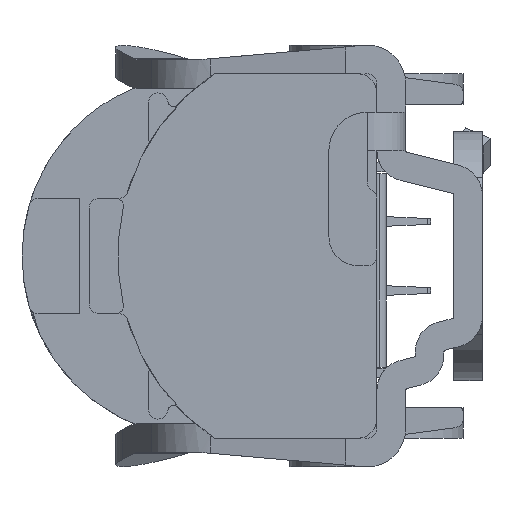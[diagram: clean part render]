
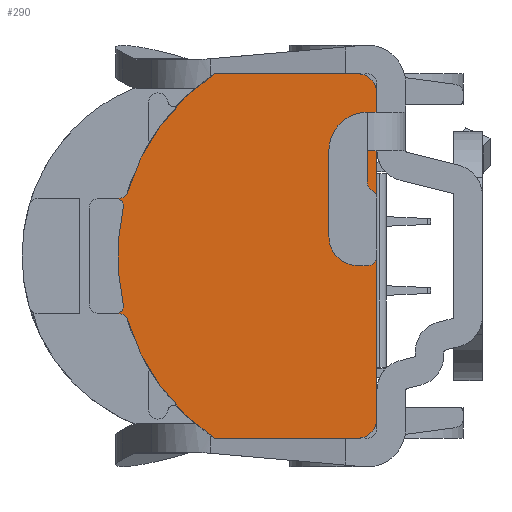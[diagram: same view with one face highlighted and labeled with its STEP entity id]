
A CAD part, left-side view. The second image highlights one B-rep face of the part: STEP entity #290.
In plain terms, the highlighted planar face has unit normal (-1, 0, 0).
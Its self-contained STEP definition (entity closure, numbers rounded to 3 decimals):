
#290 = ADVANCED_FACE( '', ( #910 ), #911, .F. );
#910 = FACE_OUTER_BOUND( '', #1716, .T. );
#911 = PLANE( '', #1717 );
#1716 = EDGE_LOOP( '', ( #3894, #3895, #3896, #3897, #3898, #3899, #3900, #3901, #3902, #3903, #3904, #3905, #3906, #3907 ) );
#1717 = AXIS2_PLACEMENT_3D( '', #3908, #3909, #3910 );
#3894 = ORIENTED_EDGE( '', *, *, #6202, .T. );
#3895 = ORIENTED_EDGE( '', *, *, #6227, .F. );
#3896 = ORIENTED_EDGE( '', *, *, #6220, .F. );
#3897 = ORIENTED_EDGE( '', *, *, #6228, .F. );
#3898 = ORIENTED_EDGE( '', *, *, #6229, .F. );
#3899 = ORIENTED_EDGE( '', *, *, #6005, .F. );
#3900 = ORIENTED_EDGE( '', *, *, #5814, .F. );
#3901 = ORIENTED_EDGE( '', *, *, #5988, .F. );
#3902 = ORIENTED_EDGE( '', *, *, #6230, .F. );
#3903 = ORIENTED_EDGE( '', *, *, #6231, .F. );
#3904 = ORIENTED_EDGE( '', *, *, #6211, .F. );
#3905 = ORIENTED_EDGE( '', *, *, #6223, .F. );
#3906 = ORIENTED_EDGE( '', *, *, #6195, .T. );
#3907 = ORIENTED_EDGE( '', *, *, #6199, .T. );
#3908 = CARTESIAN_POINT( '', ( -35.5, 0., 0. ) );
#3909 = DIRECTION( '', ( 1., 0., 0. ) );
#3910 = DIRECTION( '', ( 0., 0., -1. ) );
#5814 = EDGE_CURVE( '', #7190, #7192, #7193, .T. );
#5988 = EDGE_CURVE( '', #7467, #7190, #7469, .T. );
#6005 = EDGE_CURVE( '', #7192, #7494, #7495, .T. );
#6195 = EDGE_CURVE( '', #7826, #7824, #7827, .T. );
#6199 = EDGE_CURVE( '', #7824, #7831, #7833, .T. );
#6202 = EDGE_CURVE( '', #7831, #7836, #7838, .T. );
#6211 = EDGE_CURVE( '', #7853, #7849, #7855, .T. );
#6220 = EDGE_CURVE( '', #7869, #7871, #7872, .T. );
#6223 = EDGE_CURVE( '', #7826, #7853, #7875, .T. );
#6227 = EDGE_CURVE( '', #7871, #7836, #7879, .T. );
#6228 = EDGE_CURVE( '', #7880, #7869, #7881, .T. );
#6229 = EDGE_CURVE( '', #7494, #7880, #7882, .T. );
#6230 = EDGE_CURVE( '', #7883, #7467, #7884, .T. );
#6231 = EDGE_CURVE( '', #7849, #7883, #7885, .T. );
#7190 = VERTEX_POINT( '', #9312 );
#7192 = VERTEX_POINT( '', #9315 );
#7193 = LINE( '', #9316, #9317 );
#7467 = VERTEX_POINT( '', #9726 );
#7469 = CIRCLE( '', #9729, 1. );
#7494 = VERTEX_POINT( '', #9764 );
#7495 = CIRCLE( '', #9765, 1. );
#7824 = VERTEX_POINT( '', #10225 );
#7826 = VERTEX_POINT( '', #10228 );
#7827 = CIRCLE( '', #10229, 0.4 );
#7831 = VERTEX_POINT( '', #10234 );
#7833 = CIRCLE( '', #10237, 11.5 );
#7836 = VERTEX_POINT( '', #10240 );
#7838 = CIRCLE( '', #10243, 0.4 );
#7849 = VERTEX_POINT( '', #10257 );
#7853 = VERTEX_POINT( '', #10262 );
#7855 = CIRCLE( '', #10265, 0.5 );
#7869 = VERTEX_POINT( '', #10282 );
#7871 = VERTEX_POINT( '', #10285 );
#7872 = CIRCLE( '', #10286, 0.5 );
#7875 = LINE( '', #10291, #10292 );
#7879 = LINE( '', #10299, #10300 );
#7880 = VERTEX_POINT( '', #10301 );
#7881 = CIRCLE( '', #10302, 11.5 );
#7882 = LINE( '', #10303, #10304 );
#7883 = VERTEX_POINT( '', #10305 );
#7884 = LINE( '', #10306, #10307 );
#7885 = CIRCLE( '', #10308, 11.5 );
#9312 = CARTESIAN_POINT( '', ( -35.5, 5.51, 8.5 ) );
#9315 = CARTESIAN_POINT( '', ( -35.5, 5.51, -8.5 ) );
#9316 = CARTESIAN_POINT( '', ( -35.5, 5.51, 8.5 ) );
#9317 = VECTOR( '', #11936, 1. );
#9726 = CARTESIAN_POINT( '', ( -35.5, 6.51, 9.5 ) );
#9729 = AXIS2_PLACEMENT_3D( '', #12222, #12223, #12224 );
#9764 = CARTESIAN_POINT( '', ( -35.5, 6.51, -9.5 ) );
#9765 = AXIS2_PLACEMENT_3D( '', #12253, #12254, #12255 );
#10225 = CARTESIAN_POINT( '', ( -35.5, 18.722, 2.513 ) );
#10228 = CARTESIAN_POINT( '', ( -35.5, 19.112, 3. ) );
#10229 = AXIS2_PLACEMENT_3D( '', #12559, #12560, #12561 );
#10234 = CARTESIAN_POINT( '', ( -35.5, 18.722, -2.513 ) );
#10237 = AXIS2_PLACEMENT_3D( '', #12567, #12568, #12569 );
#10240 = CARTESIAN_POINT( '', ( -35.5, 19.112, -3. ) );
#10243 = AXIS2_PLACEMENT_3D( '', #12574, #12575, #12576 );
#10257 = CARTESIAN_POINT( '', ( -35.5, 18.543, 3.209 ) );
#10262 = CARTESIAN_POINT( '', ( -35.5, 18.95, 3. ) );
#10265 = AXIS2_PLACEMENT_3D( '', #12591, #12592, #12593 );
#10282 = CARTESIAN_POINT( '', ( -35.5, 18.543, -3.209 ) );
#10285 = CARTESIAN_POINT( '', ( -35.5, 18.95, -3. ) );
#10286 = AXIS2_PLACEMENT_3D( '', #12610, #12611, #12612 );
#10291 = CARTESIAN_POINT( '', ( -35.5, 20., 3. ) );
#10292 = VECTOR( '', #12615, 1. );
#10299 = CARTESIAN_POINT( '', ( -35.5, 18.95, -3. ) );
#10300 = VECTOR( '', #12619, 1. );
#10301 = CARTESIAN_POINT( '', ( -35.5, 13.981, -9.5 ) );
#10302 = AXIS2_PLACEMENT_3D( '', #12620, #12621, #12622 );
#10303 = CARTESIAN_POINT( '', ( -35.5, 6.51, -9.5 ) );
#10304 = VECTOR( '', #12623, 1. );
#10305 = CARTESIAN_POINT( '', ( -35.5, 13.981, 9.5 ) );
#10306 = CARTESIAN_POINT( '', ( -35.5, 13.981, 9.5 ) );
#10307 = VECTOR( '', #12624, 1. );
#10308 = AXIS2_PLACEMENT_3D( '', #12625, #12626, #12627 );
#11936 = DIRECTION( '', ( 0., 0., -1. ) );
#12222 = CARTESIAN_POINT( '', ( -35.5, 6.51, 8.5 ) );
#12223 = DIRECTION( '', ( 1., 0., 0. ) );
#12224 = DIRECTION( '', ( 0., 0., 1. ) );
#12253 = CARTESIAN_POINT( '', ( -35.5, 6.51, -8.5 ) );
#12254 = DIRECTION( '', ( 1., 0., 0. ) );
#12255 = DIRECTION( '', ( 0., -1., 0. ) );
#12559 = CARTESIAN_POINT( '', ( -35.5, 19.112, 2.6 ) );
#12560 = DIRECTION( '', ( 1., 0., 0. ) );
#12561 = DIRECTION( '', ( 0., 0., 1. ) );
#12567 = CARTESIAN_POINT( '', ( -35.5, 7.5, 0. ) );
#12568 = DIRECTION( '', ( -1., 0., 0. ) );
#12569 = DIRECTION( '', ( 0., 0.976, 0.218 ) );
#12574 = CARTESIAN_POINT( '', ( -35.5, 19.112, -2.6 ) );
#12575 = DIRECTION( '', ( 1., 0., 0. ) );
#12576 = DIRECTION( '', ( 0., -0.976, 0.218 ) );
#12591 = CARTESIAN_POINT( '', ( -35.5, 18.95, 3.5 ) );
#12592 = DIRECTION( '', ( -1., 0., 0. ) );
#12593 = DIRECTION( '', ( 0., 0., -1. ) );
#12610 = CARTESIAN_POINT( '', ( -35.5, 18.95, -3.5 ) );
#12611 = DIRECTION( '', ( -1., 0., 0. ) );
#12612 = DIRECTION( '', ( 0., -1., 0. ) );
#12615 = DIRECTION( '', ( 0., -1., 0. ) );
#12619 = DIRECTION( '', ( 0., 1., 0. ) );
#12620 = CARTESIAN_POINT( '', ( -35.5, 7.5, 0. ) );
#12621 = DIRECTION( '', ( 1., 0., 0. ) );
#12622 = DIRECTION( '', ( 0., 0.564, -0.826 ) );
#12623 = DIRECTION( '', ( 0., 1., 0. ) );
#12624 = DIRECTION( '', ( 0., -1., 0. ) );
#12625 = CARTESIAN_POINT( '', ( -35.5, 7.5, 0. ) );
#12626 = DIRECTION( '', ( 1., 0., 0. ) );
#12627 = DIRECTION( '', ( 0., 0.564, -0.826 ) );
